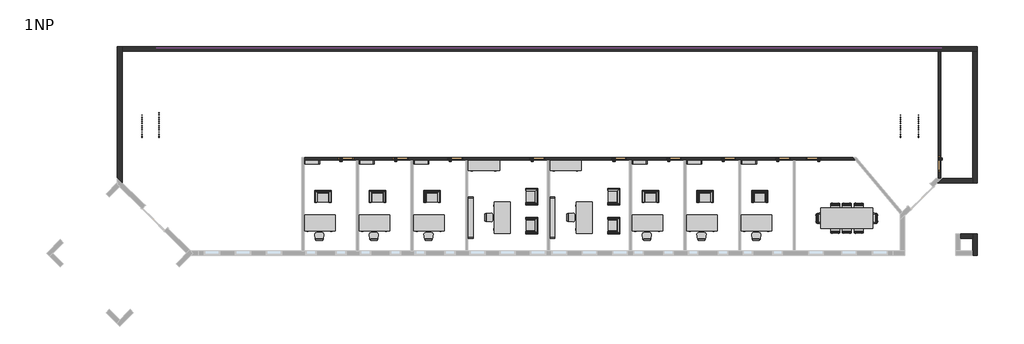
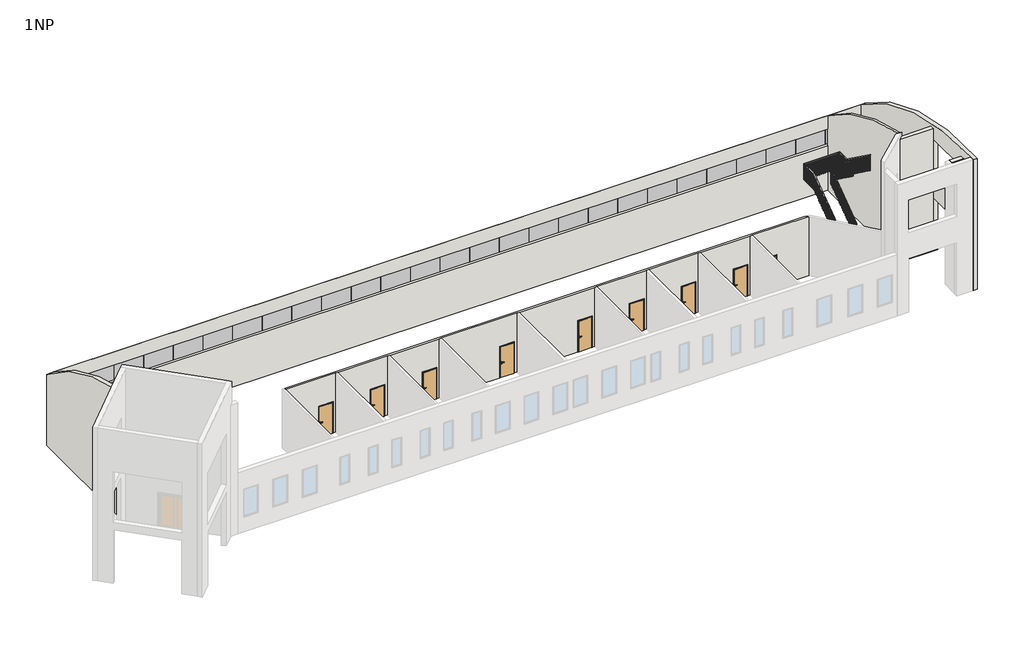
# One storey, part 2 of 2: 45 furniture elements, 26 plates, 10 doors, 7 walls, 4 railings.
"""IFC4 building model written with IfcOpenShell, lengths in millimetres."""

from ifc_helpers import new_model, si_unit, point, frame, frame_2d, origin, place, context, project, spatial, polyline, circle_curve, ellipse_curve, trimmed, segment, composite_curve, outline, extrude, faceted_brep, transform, mapped, element, save
from ifc_brep_helpers import plane_surface, cylinder_surface, advanced_brep
from components import door_900_x_2000_4c66a93d, door_900_x_2000_c64c60ef, furniture_b7f3823b, furniture_3b363349, furniture_ccc35c8f, furniture_2764bdef, furniture_0915_x_0254_x_1830mm_1d5e155e, furniture_1200_x_3050mm_930714f4, furniture_1800_x_900mm_2fcb012d, furniture_1830_x_0610mm_1080a9db, furniture_2440_x_0305_x_2134mm_59c1a9e4, system_panel_glazed_e7f7cd54, system_panel_glazed_2bdfee25, railing_1100mm_7da75a1e, railing_1100mm_276dff7a, railing_1100mm_749a05fc, railing_1100mm_07c990a1

model = new_model("IFC4")

# Units and contexts
model_context = context("Model", 3, world=origin())
ifc_project = project(units=[si_unit("LENGTHUNIT", "METRE", prefix="MILLI")], contexts=[model_context])

# Site, building, storey
site = spatial("IfcSite", under=ifc_project)
building = spatial("IfcBuilding", under=site)
storey = spatial("IfcBuildingStorey", under=building, Name="1NP", Elevation=0.0)

# Doors
placement = place(None, origin())
door_900_x_2000_shape = door_900_x_2000_4c66a93d(model_context)
element("IfcDoor", 1, ObjectType="Jednokridle oboustrana zaruben : 900 x 2000", at=placement, inside=storey, context=model_context, shape_type="MappedRepresentation", body=[
    mapped(door_900_x_2000_shape, transform((29135.9255273, 791.5551306, 0.0), x_axis=(1.0, 0.0, 0.0), y_axis=(0.0, 1.0, 0.0), z_axis=(0.0, 0.0, 1.0))),
])
element("IfcDoor", 2, ObjectType="Jednokridle oboustrana zaruben : 900 x 2000", at=placement, inside=storey, context=model_context, shape_type="MappedRepresentation", body=[
    mapped(door_900_x_2000_shape, transform((36489.1755273, 502.5551306, 0.0), x_axis=(0.0, 1.0, 0.0), y_axis=(-1.0, 0.0, 0.0), z_axis=(0.0, 0.0, 1.0))),
])
door_900_x_2000_2_shape = door_900_x_2000_c64c60ef(model_context)
element("IfcDoor", 3, ObjectType="Jednokridle oboustrana zaruben : 900 x 2000", at=placement, inside=storey, context=model_context, shape_type="MappedRepresentation", body=[
    mapped(door_900_x_2000_2_shape, transform((1699.9255273, 791.5551306, 0.0), x_axis=(-1.0, 0.0, 0.0), y_axis=(0.0, -1.0, 0.0), z_axis=(0.0, 0.0, 1.0))),
])
element("IfcDoor", 4, ObjectType="Jednokridle oboustrana zaruben : 900 x 2000", at=placement, inside=storey, context=model_context, shape_type="MappedRepresentation", body=[
    mapped(door_900_x_2000_2_shape, transform((4899.9255273, 791.5551306, 0.0), x_axis=(-1.0, 0.0, 0.0), y_axis=(0.0, -1.0, 0.0), z_axis=(0.0, 0.0, 1.0))),
])
element("IfcDoor", 5, ObjectType="Jednokridle oboustrana zaruben : 900 x 2000", at=placement, inside=storey, context=model_context, shape_type="MappedRepresentation", body=[
    mapped(door_900_x_2000_2_shape, transform((8099.9255273, 791.5551306, 0.0), x_axis=(-1.0, 0.0, 0.0), y_axis=(0.0, -1.0, 0.0), z_axis=(0.0, 0.0, 1.0))),
])
element("IfcDoor", 6, ObjectType="Jednokridle oboustrana zaruben : 900 x 2000", at=placement, inside=storey, context=model_context, shape_type="MappedRepresentation", body=[
    mapped(door_900_x_2000_2_shape, transform((12899.9255273, 791.5551306, 0.0), x_axis=(-1.0, 0.0, 0.0), y_axis=(0.0, -1.0, 0.0), z_axis=(0.0, 0.0, 1.0))),
])
element("IfcDoor", 7, ObjectType="Jednokridle oboustrana zaruben : 900 x 2000", at=placement, inside=storey, context=model_context, shape_type="MappedRepresentation", body=[
    mapped(door_900_x_2000_2_shape, transform((20899.9255273, 791.5551306, 0.0), x_axis=(-1.0, 0.0, 0.0), y_axis=(0.0, -1.0, 0.0), z_axis=(0.0, 0.0, 1.0))),
])
element("IfcDoor", 8, ObjectType="Jednokridle oboustrana zaruben : 900 x 2000", at=placement, inside=storey, context=model_context, shape_type="MappedRepresentation", body=[
    mapped(door_900_x_2000_2_shape, transform((24099.9255273, 791.5551306, 0.0), x_axis=(-1.0, 0.0, 0.0), y_axis=(0.0, -1.0, 0.0), z_axis=(0.0, 0.0, 1.0))),
])
element("IfcDoor", 9, ObjectType="Jednokridle oboustrana zaruben : 900 x 2000", at=placement, inside=storey, context=model_context, shape_type="MappedRepresentation", body=[
    mapped(door_900_x_2000_2_shape, transform((27299.9255273, 791.5551306, 0.0), x_axis=(-1.0, 0.0, 0.0), y_axis=(0.0, -1.0, 0.0), z_axis=(0.0, 0.0, 1.0))),
])
element("IfcDoor", 10, ObjectType="Jednokridle oboustrana zaruben : 900 x 2000", at=placement, inside=storey, context=model_context, shape_type="MappedRepresentation", body=[
    mapped(door_900_x_2000_2_shape, transform((17699.9255273, 791.5551306, 0.0), x_axis=(-1.0, 0.0, 0.0), y_axis=(0.0, -1.0, 0.0), z_axis=(0.0, 0.0, 1.0))),
])

# Furniture
furniture_shape = furniture_b7f3823b(model_context)
element("IfcFurniture", 11, ObjectType="Prac.zidleH : Prac.zidleHranata", at=placement, inside=storey, context=model_context, shape_type="MappedRepresentation", body=[
    mapped(furniture_shape, transform((31897.6750188, -2087.6223918, 0.0), x_axis=(-1.0000000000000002, 0.0, 0.0), y_axis=(0.0, -1.0000000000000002, 0.0), z_axis=(0.0, 0.0, 1.0))),
])
element("IfcFurniture", 12, ObjectType="Prac.zidleH : Prac.zidleHranata", at=placement, inside=storey, context=model_context, shape_type="MappedRepresentation", body=[
    mapped(furniture_shape, transform((31615.6933794, -3325.5141951, 0.0), x_axis=(1.0000000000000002, 0.0, 0.0), y_axis=(0.0, 1.0000000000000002, 0.0), z_axis=(0.0, 0.0, 1.0))),
])
element("IfcFurniture", 13, ObjectType="Prac.zidleH : Prac.zidleHranata", at=placement, inside=storey, context=model_context, shape_type="MappedRepresentation", body=[
    mapped(furniture_shape, transform((30527.9250188, -2087.6223918, 0.0), x_axis=(-1.0000000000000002, 0.0, 0.0), y_axis=(0.0, -1.0000000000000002, 0.0), z_axis=(0.0, 0.0, 1.0))),
])
element("IfcFurniture", 14, ObjectType="Prac.zidleH : Prac.zidleHranata", at=placement, inside=storey, context=model_context, shape_type="MappedRepresentation", body=[
    mapped(furniture_shape, transform((30245.9433794, -3325.5141951, 0.0), x_axis=(1.0000000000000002, 0.0, 0.0), y_axis=(0.0, 1.0000000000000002, 0.0), z_axis=(0.0, 0.0, 1.0))),
])
element("IfcFurniture", 15, ObjectType="Prac.zidleH : Prac.zidleHranata", at=placement, inside=storey, context=model_context, shape_type="MappedRepresentation", body=[
    mapped(furniture_shape, transform((31212.8000188, -2087.6223918, 0.0), x_axis=(-1.0000000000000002, 0.0, 0.0), y_axis=(0.0, -1.0000000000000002, 0.0), z_axis=(0.0, 0.0, 1.0))),
])
element("IfcFurniture", 16, ObjectType="Prac.zidleH : Prac.zidleHranata", at=placement, inside=storey, context=model_context, shape_type="MappedRepresentation", body=[
    mapped(furniture_shape, transform((30930.8183794, -3325.5141951, 0.0), x_axis=(1.0000000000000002, 0.0, 0.0), y_axis=(0.0, 1.0000000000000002, 0.0), z_axis=(0.0, 0.0, 1.0))),
])
furniture_2_shape = furniture_3b363349(model_context)
element("IfcFurniture", 17, ObjectType="Prac.zidleP : Prac.zidlePodrucky", at=placement, inside=storey, context=model_context, shape_type="MappedRepresentation", body=[
    mapped(furniture_2_shape, transform((32615.6301008, -2847.5591131, 0.0), x_axis=(0.0, 1.0000000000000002, 0.0), y_axis=(-1.0000000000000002, 0.0, 0.0), z_axis=(0.0, 0.0, 1.0))),
])
element("IfcFurniture", 18, ObjectType="Prac.zidleP : Prac.zidlePodrucky", at=placement, inside=storey, context=model_context, shape_type="MappedRepresentation", body=[
    mapped(furniture_2_shape, transform((29527.7382975, -2565.5774738, 0.0), x_axis=(0.0, -1.0000000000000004, 0.0), y_axis=(1.0000000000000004, 0.0, 0.0), z_axis=(0.0, 0.0, 1.0))),
])
furniture_3_shape = furniture_ccc35c8f(model_context)
element("IfcFurniture", 19, ObjectType="Prac.zidle : prac.zidleZaobl", at=placement, inside=storey, context=model_context, shape_type="MappedRepresentation", body=[
    mapped(furniture_3_shape, transform((149.9255273, -3938.9177984, 0.0), x_axis=(1.0, 0.0, 0.0), y_axis=(0.0, 1.0, 0.0), z_axis=(0.0, 0.0, 1.0))),
])
element("IfcFurniture", 20, ObjectType="Prac.zidle : prac.zidleZaobl", at=placement, inside=storey, context=model_context, shape_type="MappedRepresentation", body=[
    mapped(furniture_3_shape, transform((3349.9255273, -3938.9177984, 0.0), x_axis=(1.0, 0.0, 0.0), y_axis=(0.0, 1.0, 0.0), z_axis=(0.0, 0.0, 1.0))),
])
element("IfcFurniture", 21, ObjectType="Prac.zidle : prac.zidleZaobl", at=placement, inside=storey, context=model_context, shape_type="MappedRepresentation", body=[
    mapped(furniture_3_shape, transform((6549.9255273, -3938.9177984, 0.0), x_axis=(1.0, 0.0, 0.0), y_axis=(0.0, 1.0, 0.0), z_axis=(0.0, 0.0, 1.0))),
])
element("IfcFurniture", 22, ObjectType="Prac.zidle : prac.zidleZaobl", at=placement, inside=storey, context=model_context, shape_type="MappedRepresentation", body=[
    mapped(furniture_3_shape, transform((9920.3097542, -2661.8601839, 0.0), x_axis=(0.0, -1.0000000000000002, 0.0), y_axis=(1.0000000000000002, 0.0, 0.0), z_axis=(0.0, 0.0, 1.0))),
])
element("IfcFurniture", 23, ObjectType="Prac.zidle : prac.zidleZaobl", at=placement, inside=storey, context=model_context, shape_type="MappedRepresentation", body=[
    mapped(furniture_3_shape, transform((19349.9255273, -3938.9177984, 0.0), x_axis=(1.0, 0.0, 0.0), y_axis=(0.0, 1.0, 0.0), z_axis=(0.0, 0.0, 1.0))),
])
element("IfcFurniture", 24, ObjectType="Prac.zidle : prac.zidleZaobl", at=placement, inside=storey, context=model_context, shape_type="MappedRepresentation", body=[
    mapped(furniture_3_shape, transform((22549.9255273, -3938.9177984, 0.0), x_axis=(1.0, 0.0, 0.0), y_axis=(0.0, 1.0, 0.0), z_axis=(0.0, 0.0, 1.0))),
])
element("IfcFurniture", 25, ObjectType="Prac.zidle : prac.zidleZaobl", at=placement, inside=storey, context=model_context, shape_type="MappedRepresentation", body=[
    mapped(furniture_3_shape, transform((25749.9255273, -3938.9177984, 0.0), x_axis=(1.0, 0.0, 0.0), y_axis=(0.0, 1.0, 0.0), z_axis=(0.0, 0.0, 1.0))),
])
element("IfcFurniture", 26, ObjectType="Prac.zidle : prac.zidleZaobl", at=placement, inside=storey, context=model_context, shape_type="MappedRepresentation", body=[
    mapped(furniture_3_shape, transform((14720.3097542, -2661.8601839, 0.0), x_axis=(0.0, -1.0, 0.0), y_axis=(1.0, 0.0, 0.0), z_axis=(0.0, 0.0, 1.0))),
])
furniture_4_shape = furniture_2764bdef(model_context)
element("IfcFurniture", 27, ObjectType="KresilkoCorbusier : KresilkoCorbusier", at=placement, inside=storey, context=model_context, shape_type="MappedRepresentation", body=[
    mapped(furniture_4_shape, transform((2989.3517568, -1887.3719186, 0.0), x_axis=(1.0, 0.0, 0.0), y_axis=(0.0, 1.0, 0.0), z_axis=(0.0, 0.0, 1.0))),
])
element("IfcFurniture", 28, ObjectType="KresilkoCorbusier : KresilkoCorbusier", at=placement, inside=storey, context=model_context, shape_type="MappedRepresentation", body=[
    mapped(furniture_4_shape, transform((-210.6482432, -1887.3719186, 0.0), x_axis=(1.0, 0.0, 0.0), y_axis=(0.0, 1.0, 0.0), z_axis=(0.0, 0.0, 1.0))),
])
element("IfcFurniture", 29, ObjectType="KresilkoCorbusier : KresilkoCorbusier", at=placement, inside=storey, context=model_context, shape_type="MappedRepresentation", body=[
    mapped(furniture_4_shape, transform((6189.3517568, -1887.3719186, 0.0), x_axis=(1.0, 0.0, 0.0), y_axis=(0.0, 1.0, 0.0), z_axis=(0.0, 0.0, 1.0))),
])
element("IfcFurniture", 30, ObjectType="KresilkoCorbusier : KresilkoCorbusier", at=placement, inside=storey, context=model_context, shape_type="MappedRepresentation", body=[
    mapped(furniture_4_shape, transform((12135.7353038, -861.9944392, 0.0), x_axis=(0.0, -1.0000000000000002, 0.0), y_axis=(1.0000000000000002, 0.0, 0.0), z_axis=(0.0, 0.0, 1.0))),
])
element("IfcFurniture", 31, ObjectType="KresilkoCorbusier : KresilkoCorbusier", at=placement, inside=storey, context=model_context, shape_type="MappedRepresentation", body=[
    mapped(furniture_4_shape, transform((18989.3517568, -1887.3719186, 0.0), x_axis=(1.0, 0.0, 0.0), y_axis=(0.0, 1.0, 0.0), z_axis=(0.0, 0.0, 1.0))),
])
element("IfcFurniture", 32, ObjectType="KresilkoCorbusier : KresilkoCorbusier", at=placement, inside=storey, context=model_context, shape_type="MappedRepresentation", body=[
    mapped(furniture_4_shape, transform((22189.3517568, -1887.3719186, 0.0), x_axis=(1.0, 0.0, 0.0), y_axis=(0.0, 1.0, 0.0), z_axis=(0.0, 0.0, 1.0))),
])
element("IfcFurniture", 33, ObjectType="KresilkoCorbusier : KresilkoCorbusier", at=placement, inside=storey, context=model_context, shape_type="MappedRepresentation", body=[
    mapped(furniture_4_shape, transform((25389.3517568, -1887.3719186, 0.0), x_axis=(1.0, 0.0, 0.0), y_axis=(0.0, 1.0, 0.0), z_axis=(0.0, 0.0, 1.0))),
])
element("IfcFurniture", 34, ObjectType="KresilkoCorbusier : KresilkoCorbusier", at=placement, inside=storey, context=model_context, shape_type="MappedRepresentation", body=[
    mapped(furniture_4_shape, transform((12135.7353038, -2557.1944392, 0.0), x_axis=(0.0, -1.0000000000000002, 0.0), y_axis=(1.0000000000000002, 0.0, 0.0), z_axis=(0.0, 0.0, 1.0))),
])
element("IfcFurniture", 35, ObjectType="KresilkoCorbusier : KresilkoCorbusier", at=placement, inside=storey, context=model_context, shape_type="MappedRepresentation", body=[
    mapped(furniture_4_shape, transform((16935.7353038, -861.9944392, 0.0), x_axis=(0.0, -1.0, 0.0), y_axis=(1.0, 0.0, 0.0), z_axis=(0.0, 0.0, 1.0))),
])
element("IfcFurniture", 36, ObjectType="KresilkoCorbusier : KresilkoCorbusier", at=placement, inside=storey, context=model_context, shape_type="MappedRepresentation", body=[
    mapped(furniture_4_shape, transform((16935.7353038, -2557.1944392, 0.0), x_axis=(0.0, -1.0, 0.0), y_axis=(1.0, 0.0, 0.0), z_axis=(0.0, 0.0, 1.0))),
])
furniture_0915_x_0254_x_1830mm_shape = furniture_0915_x_0254_x_1830mm_1d5e155e(model_context)
element("IfcFurniture", 37, ObjectType="PolicovaSkrin : 0915 x 0254 x 1830mm", at=placement, inside=storey, context=model_context, shape_type="MappedRepresentation", body=[
    mapped(furniture_0915_x_0254_x_1830mm_shape, transform((-284.0744727, 900.1051306, 0.0), x_axis=(1.0, 0.0, 0.0), y_axis=(0.0, 1.0, 0.0), z_axis=(0.0, 0.0, 1.0))),
])
element("IfcFurniture", 38, ObjectType="PolicovaSkrin : 0915 x 0254 x 1830mm", at=placement, inside=storey, context=model_context, shape_type="MappedRepresentation", body=[
    mapped(furniture_0915_x_0254_x_1830mm_shape, transform((2915.9255273, 900.1051306, 0.0), x_axis=(1.0, 0.0, 0.0), y_axis=(0.0, 1.0, 0.0), z_axis=(0.0, 0.0, 1.0))),
])
element("IfcFurniture", 39, ObjectType="PolicovaSkrin : 0915 x 0254 x 1830mm", at=placement, inside=storey, context=model_context, shape_type="MappedRepresentation", body=[
    mapped(furniture_0915_x_0254_x_1830mm_shape, transform((6115.9255273, 900.1051306, 0.0), x_axis=(1.0, 0.0, 0.0), y_axis=(0.0, 1.0, 0.0), z_axis=(0.0, 0.0, 1.0))),
])
element("IfcFurniture", 40, ObjectType="PolicovaSkrin : 0915 x 0254 x 1830mm", at=placement, inside=storey, context=model_context, shape_type="MappedRepresentation", body=[
    mapped(furniture_0915_x_0254_x_1830mm_shape, transform((18915.9255273, 900.1051306, 0.0), x_axis=(1.0, 0.0, 0.0), y_axis=(0.0, 1.0, 0.0), z_axis=(0.0, 0.0, 1.0))),
])
element("IfcFurniture", 41, ObjectType="PolicovaSkrin : 0915 x 0254 x 1830mm", at=placement, inside=storey, context=model_context, shape_type="MappedRepresentation", body=[
    mapped(furniture_0915_x_0254_x_1830mm_shape, transform((22115.9255273, 900.1051306, 0.0), x_axis=(1.0, 0.0, 0.0), y_axis=(0.0, 1.0, 0.0), z_axis=(0.0, 0.0, 1.0))),
])
element("IfcFurniture", 42, ObjectType="PolicovaSkrin : 0915 x 0254 x 1830mm", at=placement, inside=storey, context=model_context, shape_type="MappedRepresentation", body=[
    mapped(furniture_0915_x_0254_x_1830mm_shape, transform((25315.9255273, 900.1051306, 0.0), x_axis=(1.0, 0.0, 0.0), y_axis=(0.0, 1.0, 0.0), z_axis=(0.0, 0.0, 1.0))),
])
furniture_1200_x_3050mm_shape = furniture_1200_x_3050mm_930714f4(model_context)
element("IfcFurniture", 43, ObjectType="Konf.stul : 1200 x 3050mm", at=placement, inside=storey, context=model_context, shape_type="MappedRepresentation", body=[
    mapped(furniture_1200_x_3050mm_shape, transform((31071.6841991, -2706.5682935, 0.0), x_axis=(-1.0000000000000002, 0.0, 0.0), y_axis=(0.0, -1.0000000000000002, 0.0), z_axis=(0.0, 0.0, 1.0))),
])
furniture_1800_x_900mm_shape = furniture_1800_x_900mm_2fcb012d(model_context)
element("IfcFurniture", 44, ObjectType="Prac.stul : 1800 x 900mm", at=placement, inside=storey, context=model_context, shape_type="MappedRepresentation", body=[
    mapped(furniture_1800_x_900mm_shape, transform((1058.4255273, -2534.8677984, 0.0), x_axis=(-1.0, 0.0, 0.0), y_axis=(0.0, -1.0, 0.0), z_axis=(0.0, 0.0, 1.0))),
])
element("IfcFurniture", 45, ObjectType="Prac.stul : 1800 x 900mm", at=placement, inside=storey, context=model_context, shape_type="MappedRepresentation", body=[
    mapped(furniture_1800_x_900mm_shape, transform((4258.4255273, -2534.8677984, 0.0), x_axis=(-1.0, 0.0, 0.0), y_axis=(0.0, -1.0, 0.0), z_axis=(0.0, 0.0, 1.0))),
])
element("IfcFurniture", 46, ObjectType="Prac.stul : 1800 x 900mm", at=placement, inside=storey, context=model_context, shape_type="MappedRepresentation", body=[
    mapped(furniture_1800_x_900mm_shape, transform((7458.4255273, -2534.8677984, 0.0), x_axis=(-1.0, 0.0, 0.0), y_axis=(0.0, -1.0, 0.0), z_axis=(0.0, 0.0, 1.0))),
])
element("IfcFurniture", 47, ObjectType="Prac.stul : 1800 x 900mm", at=placement, inside=storey, context=model_context, shape_type="MappedRepresentation", body=[
    mapped(furniture_1800_x_900mm_shape, transform((11324.3597542, -3570.3601839, 0.0), x_axis=(0.0, 1.0000000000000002, 0.0), y_axis=(-1.0000000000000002, 0.0, 0.0), z_axis=(0.0, 0.0, 1.0))),
])
element("IfcFurniture", 48, ObjectType="Prac.stul : 1800 x 900mm", at=placement, inside=storey, context=model_context, shape_type="MappedRepresentation", body=[
    mapped(furniture_1800_x_900mm_shape, transform((20258.4255273, -2534.8677984, 0.0), x_axis=(-1.0, 0.0, 0.0), y_axis=(0.0, -1.0, 0.0), z_axis=(0.0, 0.0, 1.0))),
])
element("IfcFurniture", 49, ObjectType="Prac.stul : 1800 x 900mm", at=placement, inside=storey, context=model_context, shape_type="MappedRepresentation", body=[
    mapped(furniture_1800_x_900mm_shape, transform((23458.4255273, -2534.8677984, 0.0), x_axis=(-1.0, 0.0, 0.0), y_axis=(0.0, -1.0, 0.0), z_axis=(0.0, 0.0, 1.0))),
])
element("IfcFurniture", 50, ObjectType="Prac.stul : 1800 x 900mm", at=placement, inside=storey, context=model_context, shape_type="MappedRepresentation", body=[
    mapped(furniture_1800_x_900mm_shape, transform((26658.4255273, -2534.8677984, 0.0), x_axis=(-1.0, 0.0, 0.0), y_axis=(0.0, -1.0, 0.0), z_axis=(0.0, 0.0, 1.0))),
])
element("IfcFurniture", 51, ObjectType="Prac.stul : 1800 x 900mm", at=placement, inside=storey, context=model_context, shape_type="MappedRepresentation", body=[
    mapped(furniture_1800_x_900mm_shape, transform((16124.3597542, -3570.3601839, 0.0), x_axis=(0.0, 1.0, 0.0), y_axis=(-1.0, 0.0, 0.0), z_axis=(0.0, 0.0, 1.0))),
])
furniture_1830_x_0610mm_shape = furniture_1830_x_0610mm_1080a9db(model_context)
element("IfcFurniture", 52, ObjectType="SkrinNizka : 1830 x 0610mm", at=placement, inside=storey, context=model_context, shape_type="MappedRepresentation", body=[
    mapped(furniture_1830_x_0610mm_shape, transform((9713.881265, 412.7248027, 0.0), x_axis=(1.0, 0.0, 0.0), y_axis=(0.0, 1.0, 0.0), z_axis=(0.0, 0.0, 1.0))),
])
element("IfcFurniture", 53, ObjectType="SkrinNizka : 1830 x 0610mm", at=placement, inside=storey, context=model_context, shape_type="MappedRepresentation", body=[
    mapped(furniture_1830_x_0610mm_shape, transform((14513.881265, 412.7248027, 0.0), x_axis=(1.0, 0.0, 0.0), y_axis=(0.0, 1.0, 0.0), z_axis=(0.0, 0.0, 1.0))),
])
furniture_2440_x_0305_x_2134mm_shape = furniture_2440_x_0305_x_2134mm_59c1a9e4(model_context)
element("IfcFurniture", 54, ObjectType="PolicovaSkrin : 2440 x 0305 x 2134mm", at=placement, inside=storey, context=model_context, shape_type="MappedRepresentation", body=[
    mapped(furniture_2440_x_0305_x_2134mm_shape, transform((9315.7255273, -2670.3601839, 0.0), x_axis=(0.0, -1.0000000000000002, 0.0), y_axis=(1.0000000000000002, 0.0, 0.0), z_axis=(0.0, 0.0, 1.0))),
])
element("IfcFurniture", 55, ObjectType="PolicovaSkrin : 2440 x 0305 x 2134mm", at=placement, inside=storey, context=model_context, shape_type="MappedRepresentation", body=[
    mapped(furniture_2440_x_0305_x_2134mm_shape, transform((14115.7255273, -2670.3601839, 0.0), x_axis=(0.0, -1.0, 0.0), y_axis=(1.0, 0.0, 0.0), z_axis=(0.0, 0.0, 1.0))),
])

# Plates
system_panel_glazed_shape = system_panel_glazed_e7f7cd54(model_context)
element("IfcPlate", 56, ObjectType="System Panel : Glazed", at=placement, inside=storey, context=model_context, shape_type="MappedRepresentation", body=[
    mapped(system_panel_glazed_shape, transform((-8495.8244727, 7241.5551306, 2916.2475184), x_axis=(1.0, 0.0, 0.0), y_axis=(0.0, 1.0, 0.0), z_axis=(0.0, 0.0, 1.0))),
])
element("IfcPlate", 57, ObjectType="System Panel : Glazed", at=placement, inside=storey, context=model_context, shape_type="MappedRepresentation", body=[
    mapped(system_panel_glazed_shape, transform((-6665.8244727, 7241.5551306, 2916.2475184), x_axis=(1.0, 0.0, 0.0), y_axis=(0.0, 1.0, 0.0), z_axis=(0.0, 0.0, 1.0))),
])
element("IfcPlate", 58, ObjectType="System Panel : Glazed", at=placement, inside=storey, context=model_context, shape_type="MappedRepresentation", body=[
    mapped(system_panel_glazed_shape, transform((-4835.8244727, 7241.5551306, 2916.2475184), x_axis=(1.0, 0.0, 0.0), y_axis=(0.0, 1.0, 0.0), z_axis=(0.0, 0.0, 1.0))),
])
element("IfcPlate", 59, ObjectType="System Panel : Glazed", at=placement, inside=storey, context=model_context, shape_type="MappedRepresentation", body=[
    mapped(system_panel_glazed_shape, transform((-3005.8244727, 7241.5551306, 2916.2475184), x_axis=(1.0, 0.0, 0.0), y_axis=(0.0, 1.0, 0.0), z_axis=(0.0, 0.0, 1.0))),
])
element("IfcPlate", 60, ObjectType="System Panel : Glazed", at=placement, inside=storey, context=model_context, shape_type="MappedRepresentation", body=[
    mapped(system_panel_glazed_shape, transform((-1175.8244727, 7241.5551306, 2916.2475184), x_axis=(1.0, 0.0, 0.0), y_axis=(0.0, 1.0, 0.0), z_axis=(0.0, 0.0, 1.0))),
])
element("IfcPlate", 61, ObjectType="System Panel : Glazed", at=placement, inside=storey, context=model_context, shape_type="MappedRepresentation", body=[
    mapped(system_panel_glazed_shape, transform((654.1755273, 7241.5551306, 2916.2475184), x_axis=(1.0, 0.0, 0.0), y_axis=(0.0, 1.0, 0.0), z_axis=(0.0, 0.0, 1.0))),
])
element("IfcPlate", 62, ObjectType="System Panel : Glazed", at=placement, inside=storey, context=model_context, shape_type="MappedRepresentation", body=[
    mapped(system_panel_glazed_shape, transform((2484.1755273, 7241.5551306, 2916.2475184), x_axis=(1.0, 0.0, 0.0), y_axis=(0.0, 1.0, 0.0), z_axis=(0.0, 0.0, 1.0))),
])
element("IfcPlate", 63, ObjectType="System Panel : Glazed", at=placement, inside=storey, context=model_context, shape_type="MappedRepresentation", body=[
    mapped(system_panel_glazed_shape, transform((4314.1755273, 7241.5551306, 2916.2475184), x_axis=(1.0, 0.0, 0.0), y_axis=(0.0, 1.0, 0.0), z_axis=(0.0, 0.0, 1.0))),
])
element("IfcPlate", 64, ObjectType="System Panel : Glazed", at=placement, inside=storey, context=model_context, shape_type="MappedRepresentation", body=[
    mapped(system_panel_glazed_shape, transform((6144.1755273, 7241.5551306, 2916.2475184), x_axis=(1.0, 0.0, 0.0), y_axis=(0.0, 1.0, 0.0), z_axis=(0.0, 0.0, 1.0))),
])
element("IfcPlate", 65, ObjectType="System Panel : Glazed", at=placement, inside=storey, context=model_context, shape_type="MappedRepresentation", body=[
    mapped(system_panel_glazed_shape, transform((7974.1755273, 7241.5551306, 2916.2475184), x_axis=(1.0, 0.0, 0.0), y_axis=(0.0, 1.0, 0.0), z_axis=(0.0, 0.0, 1.0))),
])
element("IfcPlate", 66, ObjectType="System Panel : Glazed", at=placement, inside=storey, context=model_context, shape_type="MappedRepresentation", body=[
    mapped(system_panel_glazed_shape, transform((9804.1755273, 7241.5551306, 2916.2475184), x_axis=(1.0, 0.0, 0.0), y_axis=(0.0, 1.0, 0.0), z_axis=(0.0, 0.0, 1.0))),
])
element("IfcPlate", 67, ObjectType="System Panel : Glazed", at=placement, inside=storey, context=model_context, shape_type="MappedRepresentation", body=[
    mapped(system_panel_glazed_shape, transform((11634.1755273, 7241.5551306, 2916.2475184), x_axis=(1.0, 0.0, 0.0), y_axis=(0.0, 1.0, 0.0), z_axis=(0.0, 0.0, 1.0))),
])
element("IfcPlate", 68, ObjectType="System Panel : Glazed", at=placement, inside=storey, context=model_context, shape_type="MappedRepresentation", body=[
    mapped(system_panel_glazed_shape, transform((13464.1755273, 7241.5551306, 2916.2475184), x_axis=(1.0, 0.0, 0.0), y_axis=(0.0, 1.0, 0.0), z_axis=(0.0, 0.0, 1.0))),
])
element("IfcPlate", 69, ObjectType="System Panel : Glazed", at=placement, inside=storey, context=model_context, shape_type="MappedRepresentation", body=[
    mapped(system_panel_glazed_shape, transform((15294.1755273, 7241.5551306, 2916.2475184), x_axis=(1.0, 0.0, 0.0), y_axis=(0.0, 1.0, 0.0), z_axis=(0.0, 0.0, 1.0))),
])
element("IfcPlate", 70, ObjectType="System Panel : Glazed", at=placement, inside=storey, context=model_context, shape_type="MappedRepresentation", body=[
    mapped(system_panel_glazed_shape, transform((17124.1755273, 7241.5551306, 2916.2475184), x_axis=(1.0, 0.0, 0.0), y_axis=(0.0, 1.0, 0.0), z_axis=(0.0, 0.0, 1.0))),
])
element("IfcPlate", 71, ObjectType="System Panel : Glazed", at=placement, inside=storey, context=model_context, shape_type="MappedRepresentation", body=[
    mapped(system_panel_glazed_shape, transform((18954.1755273, 7241.5551306, 2916.2475184), x_axis=(1.0, 0.0, 0.0), y_axis=(0.0, 1.0, 0.0), z_axis=(0.0, 0.0, 1.0))),
])
element("IfcPlate", 72, ObjectType="System Panel : Glazed", at=placement, inside=storey, context=model_context, shape_type="MappedRepresentation", body=[
    mapped(system_panel_glazed_shape, transform((20784.1755273, 7241.5551306, 2916.2475184), x_axis=(1.0, 0.0, 0.0), y_axis=(0.0, 1.0, 0.0), z_axis=(0.0, 0.0, 1.0))),
])
element("IfcPlate", 73, ObjectType="System Panel : Glazed", at=placement, inside=storey, context=model_context, shape_type="MappedRepresentation", body=[
    mapped(system_panel_glazed_shape, transform((22614.1755273, 7241.5551306, 2916.2475184), x_axis=(1.0, 0.0, 0.0), y_axis=(0.0, 1.0, 0.0), z_axis=(0.0, 0.0, 1.0))),
])
element("IfcPlate", 74, ObjectType="System Panel : Glazed", at=placement, inside=storey, context=model_context, shape_type="MappedRepresentation", body=[
    mapped(system_panel_glazed_shape, transform((24444.1755273, 7241.5551306, 2916.2475184), x_axis=(1.0, 0.0, 0.0), y_axis=(0.0, 1.0, 0.0), z_axis=(0.0, 0.0, 1.0))),
])
element("IfcPlate", 75, ObjectType="System Panel : Glazed", at=placement, inside=storey, context=model_context, shape_type="MappedRepresentation", body=[
    mapped(system_panel_glazed_shape, transform((26274.1755273, 7241.5551306, 2916.2475184), x_axis=(1.0, 0.0, 0.0), y_axis=(0.0, 1.0, 0.0), z_axis=(0.0, 0.0, 1.0))),
])
element("IfcPlate", 76, ObjectType="System Panel : Glazed", at=placement, inside=storey, context=model_context, shape_type="MappedRepresentation", body=[
    mapped(system_panel_glazed_shape, transform((28104.1755273, 7241.5551306, 2916.2475184), x_axis=(1.0, 0.0, 0.0), y_axis=(0.0, 1.0, 0.0), z_axis=(0.0, 0.0, 1.0))),
])
element("IfcPlate", 77, ObjectType="System Panel : Glazed", at=placement, inside=storey, context=model_context, shape_type="MappedRepresentation", body=[
    mapped(system_panel_glazed_shape, transform((29934.1755273, 7241.5551306, 2916.2475184), x_axis=(1.0, 0.0, 0.0), y_axis=(0.0, 1.0, 0.0), z_axis=(0.0, 0.0, 1.0))),
])
element("IfcPlate", 78, ObjectType="System Panel : Glazed", at=placement, inside=storey, context=model_context, shape_type="MappedRepresentation", body=[
    mapped(system_panel_glazed_shape, transform((31764.1755273, 7241.5551306, 2916.2475184), x_axis=(1.0, 0.0, 0.0), y_axis=(0.0, 1.0, 0.0), z_axis=(0.0, 0.0, 1.0))),
])
element("IfcPlate", 79, ObjectType="System Panel : Glazed", at=placement, inside=storey, context=model_context, shape_type="MappedRepresentation", body=[
    mapped(system_panel_glazed_shape, transform((33594.1755273, 7241.5551306, 2916.2475184), x_axis=(1.0, 0.0, 0.0), y_axis=(0.0, 1.0, 0.0), z_axis=(0.0, 0.0, 1.0))),
])
element("IfcPlate", 80, ObjectType="System Panel : Glazed", at=placement, inside=storey, context=model_context, shape_type="MappedRepresentation", body=[
    mapped(system_panel_glazed_shape, transform((35424.1755273, 7241.5551306, 2916.2475184), x_axis=(1.0, 0.0, 0.0), y_axis=(0.0, 1.0, 0.0), z_axis=(0.0, 0.0, 1.0))),
])
system_panel_glazed_2_shape = system_panel_glazed_2bdfee25(model_context)
element("IfcPlate", 81, ObjectType="System Panel : Glazed", at=placement, inside=storey, context=model_context, shape_type="MappedRepresentation", body=[
    mapped(system_panel_glazed_2_shape, transform((36464.1755273, 7241.5551306, 2916.2475184), x_axis=(1.0, 0.0, 0.0), y_axis=(0.0, 1.0, 0.0), z_axis=(0.0, 0.0, 1.0))),
])

# Railings
railing_1100mm_shape = railing_1100mm_7da75a1e(model_context)
element("IfcRailing", 82, ObjectType="1100mm", at=placement, inside=storey, context=model_context, shape_type="MappedRepresentation", body=[
    mapped(railing_1100mm_shape, transform((0.0, 0.0, 0.0), x_axis=(1.0, 0.0, 0.0), y_axis=(0.0, 1.0, 0.0), z_axis=(0.0, 0.0, 1.0))),
])
railing_1100mm_2_shape = railing_1100mm_276dff7a(model_context)
element("IfcRailing", 83, ObjectType="1100mm", at=placement, inside=storey, context=model_context, shape_type="MappedRepresentation", body=[
    mapped(railing_1100mm_2_shape, transform((0.0, 0.0, 0.0), x_axis=(1.0, 0.0, 0.0), y_axis=(0.0, 1.0, 0.0), z_axis=(0.0, 0.0, 1.0))),
])
railing_1100mm_3_shape = railing_1100mm_749a05fc(model_context)
element("IfcRailing", 84, ObjectType="1100mm", at=placement, inside=storey, context=model_context, shape_type="MappedRepresentation", body=[
    mapped(railing_1100mm_3_shape, transform((0.0, 0.0, 0.0), x_axis=(1.0, 0.0, 0.0), y_axis=(0.0, 1.0, 0.0), z_axis=(0.0, 0.0, 1.0))),
])
railing_1100mm_4_shape = railing_1100mm_07c990a1(model_context)
element("IfcRailing", 85, ObjectType="1100mm", at=placement, inside=storey, context=model_context, shape_type="MappedRepresentation", body=[
    mapped(railing_1100mm_4_shape, transform((0.0, 0.0, 0.0), x_axis=(1.0, 0.0, 0.0), y_axis=(0.0, 1.0, 0.0), z_axis=(0.0, 0.0, 1.0))),
])

# Walls
element("IfcWall", 86, ObjectType="Exterior - EIFS on Mtl. Stud", at=placement, inside=storey, context=model_context, shape_type="AdvancedBrep", body=[
    advanced_brep(
    [(-11410.8244727, 7108.0551306, 0.0), (36419.9255273, 7108.0551306, 0.0), (36558.4255273, 7108.0551306, 0.0), (38455.6755273, 7108.0551306, 0.0), (38722.6755273, 7108.0551306, 0.0), (38722.6755273, 7108.0551306, 4858.4183068), (38455.6755273, 7108.0551306, 4858.4183068), (36558.4255273, 7108.0551306, 4858.4183068), (36419.9255273, 7108.0551306, 4858.4183068), (-11410.8244727, 7108.0551306, 4858.4183068), (-9410.8244727, 7108.0551306, 2916.2475184), (-9410.8244727, 7108.0551306, 4000.0), (36589.1755273, 7108.0551306, 4000.0), (36589.1755273, 7108.0551306, 2916.2475184), (38722.6755273, 7375.0551306, 0.0), (-11410.8244727, 7375.0551306, 0.0), (-11410.8244727, 7375.0551306, 4647.9646014), (38722.6755273, 7375.0551306, 4647.9646014), (-9410.8244727, 7375.0551306, 4000.0), (-9410.8244727, 7375.0551306, 2916.2475184), (36589.1755273, 7375.0551306, 2916.2475184), (36589.1755273, 7375.0551306, 4000.0)],
    [
        (0, 1),
        (1, 2),
        (2, 3),
        (3, 4),
        (4, 5),
        (5, 6),
        (6, 7),
        (7, 8),
        (8, 9),
        (9, 0),
        (10, 11),
        (11, 12),
        (12, 13),
        (13, 10),
        (14, 15),
        (15, 16),
        (16, 17),
        (17, 14),
        (18, 19),
        (19, 20),
        (20, 21),
        (21, 18),
        (0, 15),
        (14, 4),
        (17, 5, circle_curve(frame((38722.6755273, -3782.5530793, -9232.9575956), z_axis=(1.0, 0.0, 0.0), x_axis=(0.0, -1.0, 0.0)), 17809.3296337)),
        (9, 16, circle_curve(frame((-11410.8244727, -3782.5530793, -9232.9575956), z_axis=(-1.0, 0.0, 0.0), x_axis=(0.0, -1.0, 0.0)), 17809.3296337)),
        (10, 19),
        (18, 11),
        (21, 12),
        (20, 13),
    ],
    [
        plane_surface(frame((-5544.3244727, 7108.0551306, 0.0), z_axis=(0.0, -1.0, 0.0), x_axis=(1.0, 0.0, 0.0))),
        plane_surface(frame((-5544.3244727, 7375.0551306, 0.0), z_axis=(0.0, 1.0, 0.0), x_axis=(-1.0, 0.0, 0.0))),
        plane_surface(frame((-11544.3244727, 7108.0551306, 0.0), z_axis=(0.0, 0.0, -1.0), x_axis=(0.0, 1.0, 0.0))),
        plane_surface(frame((38722.6755273, 5741.5551306, 0.0), z_axis=(1.0, 0.0, 0.0), x_axis=(0.0, 1.0, 0.0))),
        plane_surface(frame((-11410.8244727, -6258.4448694, 0.0), z_axis=(-1.0, 0.0, 0.0), x_axis=(0.0, 1.0, 0.0))),
        cylinder_surface(frame((39922.6755273, -3782.5530793, -9232.9575956), z_axis=(1.0, 0.0, 0.0), x_axis=(0.0, -1.0, 0.0)), 17809.3296337),
        plane_surface(frame((-9410.8244727, 7527.4551306, 2916.2475184), z_axis=(1.0, 0.0, 0.0), x_axis=(0.0, -1.0, 0.0))),
        plane_surface(frame((-9410.8244727, 7527.4551306, 4000.0), z_axis=(0.0, 0.0, -1.0), x_axis=(0.0, -1.0, 0.0))),
        plane_surface(frame((36589.1755273, 7527.4551306, 4000.0), z_axis=(-1.0, 0.0, 0.0), x_axis=(0.0, -1.0, 0.0))),
        plane_surface(frame((36589.1755273, 7527.4551306, 2916.2475184), z_axis=(0.0, 0.0, 1.0), x_axis=(0.0, -1.0, 0.0))),
    ],
    [
        (0, [[1, 2, 3, 4, 5, 6, 7, 8, 9, 10], [11, 12, 13, 14]]),
        (1, [[15, 16, 17, 18], [19, 20, 21, 22]]),
        (2, [[-4, -3, -2, -1, 23, -15, 24]]),
        (3, [[-5, -24, -18, 25]]),
        (4, [[-10, 26, -16, -23]]),
        (5, [[-9, -8, -7, -6, -25, -17, -26]]),
        (6, [[27, -19, 28, -11]]),
        (7, [[-28, -22, 29, -12]]),
        (8, [[-29, -21, 30, -13]]),
        (9, [[-27, -14, -30, -20]]),
    ],
),
])
element("IfcWall", 87, ObjectType="Exterior - EIFS on Mtl. Stud", at=placement, inside=storey, context=model_context, shape_type="AdvancedBrep", body=[
    advanced_brep(
    [(38455.6755273, 7108.0551306, 0.0), (38455.6755273, -374.9448694, 0.0), (38455.6755273, -641.9448694, 0.0), (38455.6755273, -641.9448694, 3500.0), (38455.6755273, -3624.9448694, 3500.0), (38455.6755273, -3624.9448694, 0.0), (38455.6755273, -3891.9448694, 0.0), (38455.6755273, -4624.9448694, 0.0), (38455.6755273, -4891.9448694, 0.0), (38455.6755273, -4891.9448694, 8541.7849302), (38455.6755273, -4624.9249558, 8556.4388364), (38455.6755273, 7108.0551306, 4858.4183068), (38455.6755273, -641.9448694, 5200.0), (38455.6755273, -641.9448694, 7300.0), (38455.6755273, -3624.9448694, 7300.0), (38455.6755273, -3624.9448694, 5200.0), (38722.6755273, 7108.0551306, 0.0), (38722.6755273, 7108.0551306, 4858.4183068), (38722.6755273, -4891.9448694, 8541.7849302), (38722.6755273, -4891.9448694, 0.0), (38722.6755273, -3624.9448694, 0.0), (38722.6755273, -3624.9448694, 3500.0), (38722.6755273, -641.9448694, 3500.0), (38722.6755273, -641.9448694, 0.0), (38722.6755273, -641.9448694, 5200.0), (38722.6755273, -3624.9448694, 5200.0), (38722.6755273, -3624.9448694, 7300.0), (38722.6755273, -641.9448694, 7300.0)],
    [
        (0, 1),
        (1, 2),
        (2, 3),
        (3, 4),
        (4, 5),
        (5, 6),
        (6, 7),
        (7, 8),
        (8, 9),
        (9, 10, circle_curve(frame((38455.6755273, -3782.5530793, -9232.9575956), z_axis=(-1.0, 0.0, 0.0), x_axis=(0.0, -1.0, 0.0)), 17809.3296337)),
        (10, 11, circle_curve(frame((38455.6755273, -3782.5530793, -9232.9575956), z_axis=(-1.0, 0.0, 0.0), x_axis=(0.0, -1.0, 0.0)), 17809.3294594)),
        (11, 0),
        (12, 13),
        (13, 14),
        (14, 15),
        (15, 12),
        (16, 17),
        (17, 18, circle_curve(frame((38722.6755273, -3782.5530793, -9232.9575956), z_axis=(1.0, 0.0, 0.0), x_axis=(0.0, -1.0, 0.0)), 17809.3296337)),
        (18, 19),
        (19, 20),
        (20, 21),
        (21, 22),
        (22, 23),
        (23, 16),
        (24, 25),
        (25, 26),
        (26, 27),
        (27, 24),
        (0, 16),
        (23, 2),
        (3, 22),
        (21, 4),
        (5, 20),
        (19, 8),
        (13, 27),
        (26, 14),
        (15, 25),
        (24, 12),
        (18, 9),
        (11, 17),
    ],
    [
        plane_surface(frame((38455.6755273, 5741.5551306, 0.0), z_axis=(-1.0, 0.0, 0.0), x_axis=(0.0, -1.0, 0.0))),
        plane_surface(frame((38722.6755273, 5741.5551306, 0.0), z_axis=(1.0, 0.0, 0.0), x_axis=(0.0, 1.0, 0.0))),
        plane_surface(frame((38455.6755273, 7241.5551306, 0.0), z_axis=(0.0, 0.0, -1.0), x_axis=(1.0, 0.0, 0.0))),
        plane_surface(frame((38455.6755273, -508.4448694, 3500.0), z_axis=(0.0, 0.0, -1.0), x_axis=(1.0, 0.0, 0.0))),
        plane_surface(frame((38455.6755273, -3758.4448694, 0.0), z_axis=(0.0, 0.0, -1.0), x_axis=(1.0, 0.0, 0.0))),
        plane_surface(frame((38455.6755273, -508.4448694, 7300.0), z_axis=(0.0, 0.0, -1.0), x_axis=(1.0, 0.0, 0.0))),
        plane_surface(frame((38455.6755273, -3758.4448694, 5200.0), z_axis=(0.0, 0.0, 1.0), x_axis=(1.0, 0.0, 0.0))),
        plane_surface(frame((12455.6755273, -4891.9448694, 0.0), z_axis=(0.0, -1.0, 0.0), x_axis=(1.0, 0.0, 0.0))),
        plane_surface(frame((-5544.3244727, 7108.0551306, 0.0), z_axis=(0.0, 1.0, 0.0), x_axis=(1.0, 0.0, 0.0))),
        plane_surface(frame((38455.6755273, -641.9448694, 0.0), z_axis=(0.0, -1.0, 0.0), x_axis=(1.0, 0.0, 0.0))),
        plane_surface(frame((37555.6755273, -3624.9448694, 0.0), z_axis=(0.0, 1.0, 0.0), x_axis=(-1.0, 0.0, 0.0))),
        cylinder_surface(frame((39922.6755273, -3782.5530793, -9232.9575956), z_axis=(1.0, 0.0, 0.0), x_axis=(0.0, -1.0, 0.0)), 17809.3296337),
    ],
    [
        (0, [[1, 2, 3, 4, 5, 6, 7, 8, 9, 10, 11, 12], [13, 14, 15, 16]]),
        (1, [[17, 18, 19, 20, 21, 22, 23, 24], [25, 26, 27, 28]]),
        (2, [[-2, -1, 29, -24, 30]]),
        (3, [[-4, 31, -22, 32]]),
        (4, [[-8, -7, -6, 33, -20, 34]]),
        (5, [[-14, 35, -27, 36]]),
        (6, [[-16, 37, -25, 38]]),
        (7, [[-9, -34, -19, 39]]),
        (8, [[-12, 40, -17, -29]]),
        (9, [[-3, -30, -23, -31]]),
        (9, [[-13, -38, -28, -35]]),
        (10, [[-5, -32, -21, -33]]),
        (10, [[-15, -36, -26, -37]]),
        (11, [[-11, -10, -39, -18, -40]]),
    ],
),
])
element("IfcWall", 88, ObjectType="Exterior - EIFS on Mtl. Stud", at=placement, inside=storey, context=model_context, shape_type="AdvancedBrep", body=[
    advanced_brep(
    [(-11410.8244727, -601.928028, 0.0), (-11410.8244727, 7108.0551306, 0.0), (-11410.8244727, 7375.0551306, 0.0), (-11410.8244727, 7375.0551306, 4647.9646014), (-11410.8244727, 7108.0445023, 4858.4264309), (-11410.8244727, -601.928028, 8290.0514578), (-11677.8244727, -334.928028, 0.0), (-11677.8244727, -334.928028, 8239.4808006), (-11677.8244727, 7375.0551306, 4647.9646014), (-11677.8244727, 7375.0551306, 0.0)],
    [
        (0, 1),
        (1, 2),
        (2, 3),
        (3, 4, circle_curve(frame((-11410.8244727, -3782.5530793, -9232.9575956), z_axis=(1.0, 0.0, 0.0), x_axis=(0.0, -1.0, 0.0)), 17809.3296337)),
        (4, 5, circle_curve(frame((-11410.8244727, -3782.5530793, -9232.9575956), z_axis=(1.0, 0.0, 0.0), x_axis=(0.0, -1.0, 0.0)), 17809.3295625)),
        (5, 0),
        (6, 7),
        (7, 8, circle_curve(frame((-11677.8244727, -3782.5530793, -9232.9575956), z_axis=(-1.0, 0.0, 0.0), x_axis=(0.0, -1.0, 0.0)), 17809.3296337)),
        (8, 9),
        (9, 6),
        (0, 6),
        (9, 2),
        (8, 3),
        (5, 7, ellipse_curve(frame((-8230.1994214, -3782.5530793, -9232.9575956), z_axis=(-0.7071067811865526, -0.7071067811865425, 0.0), x_axis=(0.7071067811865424, -0.7071067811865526, 0.0)), 25186.1955048, 17809.3296337)),
    ],
    [
        plane_surface(frame((-11410.8244727, -6258.4448694, 0.0), z_axis=(1.0, 0.0, 0.0), x_axis=(0.0, 1.0, 0.0))),
        plane_surface(frame((-11677.8244727, -6258.4448694, 0.0), z_axis=(-1.0, 0.0, 0.0), x_axis=(0.0, -1.0, 0.0))),
        plane_surface(frame((-11410.8244727, -657.2255385, 0.0), z_axis=(0.0, 0.0, -1.0), x_axis=(-1.0, 0.0, 0.0))),
        plane_surface(frame((-5544.3244727, 7375.0551306, 0.0), z_axis=(0.0, 1.0, 0.0), x_axis=(-1.0, 0.0, 0.0))),
        plane_surface(frame((-12510.5858892, 497.8333885, 0.0), z_axis=(-0.7071067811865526, -0.7071067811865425, 0.0), x_axis=(-0.7071067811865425, 0.7071067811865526, 0.0))),
        cylinder_surface(frame((39922.6755273, -3782.5530793, -9232.9575956), z_axis=(1.0, 0.0, 0.0), x_axis=(0.0, -1.0, 0.0)), 17809.3296337),
    ],
    [
        (0, [[1, 2, 3, 4, 5, 6]]),
        (1, [[7, 8, 9, 10]]),
        (2, [[-2, -1, 11, -10, 12]]),
        (3, [[-3, -12, -9, 13]]),
        (4, [[-6, 14, -7, -11]]),
        (5, [[-5, -4, -13, -8, -14]]),
    ],
),
])
element("IfcWall", 89, ObjectType="Exterior - EIFS on Mtl. Stud", at=placement, inside=storey, context=model_context, shape_type="Brep", body=[
    faceted_brep([(37722.6755273, -3891.9448694, 0.0), (38455.6755273, -3891.9448694, 0.0), (38455.6755273, -3891.9448694, 8000.0), (37722.6755273, -3891.9448694, 8000.0), (37722.6755273, -3624.9448694, 0.0), (37722.6755273, -3624.9448694, 8000.0), (38455.6755273, -3624.9448694, 8000.0), (38455.6755273, -3624.9448694, 7300.0), (38455.6755273, -3624.9448694, 5200.0), (38455.6755273, -3624.9448694, 3500.0), (38455.6755273, -3624.9448694, 0.0)], [[[0, 1, 2, 3]], [[4, 5, 6, 7, 8, 9, 10]], [[1, 0, 4, 10]], [[3, 2, 6, 5]], [[0, 3, 5, 4]], [[1, 10, 9, 8, 7, 6, 2]]]),
])
element("IfcWall", 90, ObjectType="Exterior - EIFS on Mtl. Stud", at=placement, inside=storey, context=model_context, shape_type="Brep", body=[
    faceted_brep([(38455.6755273, -374.9448694, 8000.0), (38455.6755273, -374.9448694, 0.0), (36648.1692947, -374.9448694, 0.0), (36648.1692947, -374.9448694, 8000.0), (38455.6755273, -641.9448694, 0.0), (38455.6755273, -641.9448694, 3500.0), (38455.6755273, -641.9448694, 5200.0), (38455.6755273, -641.9448694, 7300.0), (38455.6755273, -641.9448694, 8000.0), (36381.1692947, -641.9448694, 8000.0), (36381.1692947, -641.9448694, 0.0)], [[[0, 1, 2, 3]], [[4, 5, 6, 7, 8, 9, 10]], [[2, 1, 4, 10]], [[0, 3, 9, 8]], [[3, 2, 10, 9]], [[0, 8, 7, 6, 5, 4, 1]]]),
])
element("IfcWall", 91, ObjectType="Interior - 138mm Partition (1-hr)", at=placement, inside=storey, context=model_context, shape_type="SweptSolid", body=[
    extrude(outline(composite_curve([segment(polyline([(7108.0551306, 0.0), (932.5551306, 0.0), (932.5551306, 2050.0), (32.5551306, 2050.0), (32.5551306, 0.0), (-374.9448694, 0.0), (-374.9448694, 8247.3292525)]), True, "CONTINUOUS"), segment(trimmed(circle_curve(frame_2d((-3782.5530793, -9232.9575956)), 17809.3296337), [point((-374.9448694, 8247.3292525))], [point((7108.0551306, 4858.4183068))], False, "CARTESIAN"), True, "CONTINUOUS"), segment(polyline([(7108.0551306, 4858.4183068), (7108.0551306, 0.0)]), True, "CONTINUOUS")], self_intersect=False)), frame((36419.9255273, 0.0, 0.0), z_axis=(1.0, 0.0, 0.0), x_axis=(0.0, 1.0, 0.0)), (0.0, 0.0, 1.0), 138.5),
])
element("IfcWall", 92, ObjectType="Interior - 138mm Partition (1-hr)", at=placement, inside=storey, context=model_context, shape_type="Brep", body=[
    faceted_brep([(17269.9255273, 860.8051306, 2050.0), (17269.9255273, 860.8051306, 0.0), (13369.9255273, 860.8051306, 0.0), (13369.9255273, 860.8051306, 2050.0), (12469.9255273, 860.8051306, 2050.0), (12469.9255273, 860.8051306, 0.0), (8569.9255273, 860.8051306, 0.0), (8569.9255273, 860.8051306, 2050.0), (7669.9255273, 860.8051306, 2050.0), (7669.9255273, 860.8051306, 0.0), (5369.9255273, 860.8051306, 0.0), (5369.9255273, 860.8051306, 2050.0), (4469.9255273, 860.8051306, 2050.0), (4469.9255273, 860.8051306, 0.0), (2169.9255273, 860.8051306, 0.0), (2169.9255273, 860.8051306, 2050.0), (1269.9255273, 860.8051306, 2050.0), (1269.9255273, 860.8051306, 0.0), (-741.5744727, 860.8051306, 0.0), (-741.5744727, 860.8051306, 3850.0), (31432.8028061, 860.8051306, 3850.0), (31432.8028061, 860.8051306, 0.0), (29565.9255273, 860.8051306, 0.0), (29565.9255273, 860.8051306, 2050.0), (28665.9255273, 860.8051306, 2050.0), (28665.9255273, 860.8051306, 0.0), (27769.9255273, 860.8051306, 0.0), (27769.9255273, 860.8051306, 2050.0), (26869.9255273, 860.8051306, 2050.0), (26869.9255273, 860.8051306, 0.0), (24569.9255273, 860.8051306, 0.0), (24569.9255273, 860.8051306, 2050.0), (23669.9255273, 860.8051306, 2050.0), (23669.9255273, 860.8051306, 0.0), (21369.9255273, 860.8051306, 0.0), (21369.9255273, 860.8051306, 2050.0), (20469.9255273, 860.8051306, 2050.0), (20469.9255273, 860.8051306, 0.0), (18169.9255273, 860.8051306, 0.0), (18169.9255273, 860.8051306, 2050.0), (13369.9255273, 722.3051306, 0.0), (13519.9255273, 722.3051306, 0.0), (13658.4255273, 722.3051306, 0.0), (17269.9255273, 722.3051306, 0.0), (17269.9255273, 722.3051306, 2050.0), (18169.9255273, 722.3051306, 2050.0), (18169.9255273, 722.3051306, 0.0), (18319.9255273, 722.3051306, 0.0), (18458.4255273, 722.3051306, 0.0), (20469.9255273, 722.3051306, 0.0), (20469.9255273, 722.3051306, 2050.0), (21369.9255273, 722.3051306, 2050.0), (21369.9255273, 722.3051306, 0.0), (21519.9255273, 722.3051306, 0.0), (21658.4255273, 722.3051306, 0.0), (23669.9255273, 722.3051306, 0.0), (23669.9255273, 722.3051306, 2050.0), (24569.9255273, 722.3051306, 2050.0), (24569.9255273, 722.3051306, 0.0), (24719.9255273, 722.3051306, 0.0), (24858.4255273, 722.3051306, 0.0), (26869.9255273, 722.3051306, 0.0), (26869.9255273, 722.3051306, 2050.0), (27769.9255273, 722.3051306, 2050.0), (27769.9255273, 722.3051306, 0.0), (27919.9255273, 722.3051306, 0.0), (28058.4255273, 722.3051306, 0.0), (28665.9255273, 722.3051306, 0.0), (28665.9255273, 722.3051306, 2050.0), (29565.9255273, 722.3051306, 2050.0), (29565.9255273, 722.3051306, 0.0), (31549.018105, 722.3051306, 0.0), (31549.018105, 722.3051306, 3850.0), (28058.4255273, 722.3051306, 3850.0), (27919.9255273, 722.3051306, 3850.0), (24858.4255273, 722.3051306, 3850.0), (24719.9255273, 722.3051306, 3850.0), (21658.4255273, 722.3051306, 3850.0), (21519.9255273, 722.3051306, 3850.0), (18458.4255273, 722.3051306, 3850.0), (18319.9255273, 722.3051306, 3850.0), (13658.4255273, 722.3051306, 3850.0), (13519.9255273, 722.3051306, 3850.0), (8858.4255273, 722.3051306, 3850.0), (8719.9255273, 722.3051306, 3850.0), (5658.4255273, 722.3051306, 3850.0), (5519.9255273, 722.3051306, 3850.0), (2458.4255273, 722.3051306, 3850.0), (2319.9255273, 722.3051306, 3850.0), (-741.5744727, 722.3051306, 3850.0), (-741.5744727, 722.3051306, 0.0), (1269.9255273, 722.3051306, 0.0), (1269.9255273, 722.3051306, 2050.0), (2169.9255273, 722.3051306, 2050.0), (2169.9255273, 722.3051306, 0.0), (2319.9255273, 722.3051306, 0.0), (2458.4255273, 722.3051306, 0.0), (4469.9255273, 722.3051306, 0.0), (4469.9255273, 722.3051306, 2050.0), (5369.9255273, 722.3051306, 2050.0), (5369.9255273, 722.3051306, 0.0), (5519.9255273, 722.3051306, 0.0), (5658.4255273, 722.3051306, 0.0), (7669.9255273, 722.3051306, 0.0), (7669.9255273, 722.3051306, 2050.0), (8569.9255273, 722.3051306, 2050.0), (8569.9255273, 722.3051306, 0.0), (8719.9255273, 722.3051306, 0.0), (8858.4255273, 722.3051306, 0.0), (12469.9255273, 722.3051306, 0.0), (12469.9255273, 722.3051306, 2050.0), (13369.9255273, 722.3051306, 2050.0)], [[[0, 1, 2, 3, 4, 5, 6, 7, 8, 9, 10, 11, 12, 13, 14, 15, 16, 17, 18, 19, 20, 21, 22, 23, 24, 25, 26, 27, 28, 29, 30, 31, 32, 33, 34, 35, 36, 37, 38, 39]], [[40, 41, 42, 43, 44, 45, 46, 47, 48, 49, 50, 51, 52, 53, 54, 55, 56, 57, 58, 59, 60, 61, 62, 63, 64, 65, 66, 67, 68, 69, 70, 71, 72, 73, 74, 75, 76, 77, 78, 79, 80, 81, 82, 83, 84, 85, 86, 87, 88, 89, 90, 91, 92, 93, 94, 95, 96, 97, 98, 99, 100, 101, 102, 103, 104, 105, 106, 107, 108, 109, 110, 111]], [[71, 70, 22, 21]], [[18, 17, 91, 90]], [[10, 9, 103, 102, 101, 100]], [[14, 13, 97, 96, 95, 94]], [[6, 5, 109, 108, 107, 106]], [[2, 1, 43, 42, 41, 40]], [[34, 33, 55, 54, 53, 52]], [[30, 29, 61, 60, 59, 58]], [[26, 25, 67, 66, 65, 64]], [[38, 37, 49, 48, 47, 46]], [[21, 20, 72, 71]], [[19, 18, 90, 89]], [[20, 19, 89, 88, 87, 86, 85, 84, 83, 82, 81, 80, 79, 78, 77, 76, 75, 74, 73, 72]], [[23, 22, 70, 69]], [[24, 23, 69, 68]], [[25, 24, 68, 67]], [[98, 97, 13, 12]], [[99, 98, 12, 11]], [[100, 99, 11, 10]], [[92, 91, 17, 16]], [[93, 92, 16, 15]], [[94, 93, 15, 14]], [[104, 103, 9, 8]], [[105, 104, 8, 7]], [[106, 105, 7, 6]], [[110, 109, 5, 4]], [[111, 110, 4, 3]], [[40, 111, 3, 2]], [[50, 49, 37, 36]], [[51, 50, 36, 35]], [[52, 51, 35, 34]], [[56, 55, 33, 32]], [[57, 56, 32, 31]], [[58, 57, 31, 30]], [[62, 61, 29, 28]], [[63, 62, 28, 27]], [[64, 63, 27, 26]], [[44, 43, 1, 0]], [[45, 44, 0, 39]], [[46, 45, 39, 38]]]),
])

save(model, "model.ifc")
